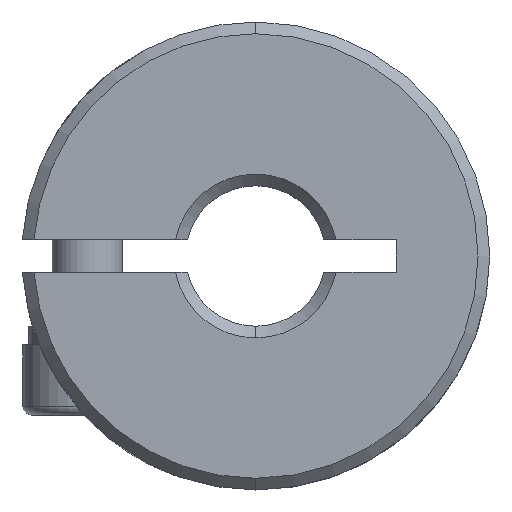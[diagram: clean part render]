
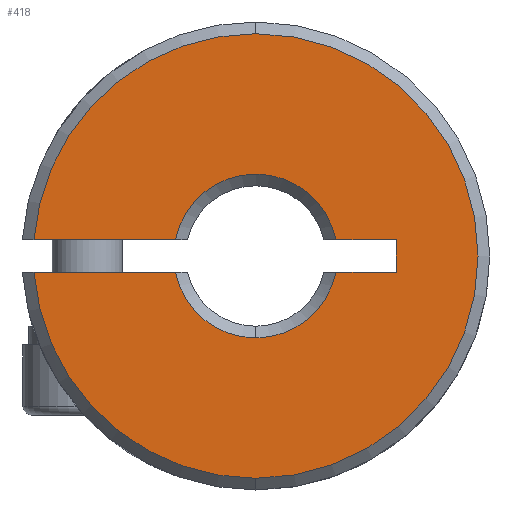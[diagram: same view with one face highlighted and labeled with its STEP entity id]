
A CAD part, front view. The second image highlights one B-rep face of the part: STEP entity #418.
In plain terms, the highlighted planar face has unit normal (0, -1, 0).
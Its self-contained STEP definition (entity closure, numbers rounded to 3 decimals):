
#97 = VECTOR ( 'NONE', #1485, 1000. ) ;
#99 = CARTESIAN_POINT ( 'NONE',  ( 0., 0.25, -9.5 ) ) ;
#171 = AXIS2_PLACEMENT_3D ( 'NONE', #2875, #2836, #2886 ) ;
#223 = VECTOR ( 'NONE', #518, 1000. ) ;
#232 = CIRCLE ( 'NONE', #3521, 9.5 ) ;
#249 = EDGE_CURVE ( 'NONE', #3676, #1661, #3660, .T. ) ;
#262 = CARTESIAN_POINT ( 'NONE',  ( 0., 0.25, 9.5 ) ) ;
#306 = CARTESIAN_POINT ( 'NONE',  ( 6., 0.25, 0.7 ) ) ;
#324 = LINE ( 'NONE', #3750, #419 ) ;
#384 = EDGE_CURVE ( 'NONE', #2089, #2376, #2683, .T. ) ;
#413 = VERTEX_POINT ( 'NONE', #2262 ) ;
#418 = ADVANCED_FACE ( 'NONE', ( #3232 ), #3124, .F. ) ;
#419 = VECTOR ( 'NONE', #2000, 1000. ) ;
#443 = EDGE_CURVE ( 'NONE', #3639, #1882, #324, .T. ) ;
#479 = EDGE_CURVE ( 'NONE', #1882, #747, #1127, .T. ) ;
#518 = DIRECTION ( 'NONE',  ( 1., 0., 0. ) ) ;
#524 = DIRECTION ( 'NONE',  ( 0., -1., 0. ) ) ;
#596 = CARTESIAN_POINT ( 'NONE',  ( 3.429, 0.25, 0.7 ) ) ;
#644 = VECTOR ( 'NONE', #1100, 1000. ) ;
#653 = ORIENTED_EDGE ( 'NONE', *, *, #1221, .T. ) ;
#657 = EDGE_CURVE ( 'NONE', #2267, #2376, #2352, .T. ) ;
#678 = LINE ( 'NONE', #1964, #223 ) ;
#682 = CIRCLE ( 'NONE', #2621, 9.5 ) ;
#747 = VERTEX_POINT ( 'NONE', #1320 ) ;
#752 = DIRECTION ( 'NONE',  ( 0., 1., 0. ) ) ;
#754 = AXIS2_PLACEMENT_3D ( 'NONE', #2215, #752, #1302 ) ;
#758 = DIRECTION ( 'NONE',  ( 0., 1., 0. ) ) ;
#817 = DIRECTION ( 'NONE',  ( 0., 0., 1. ) ) ;
#870 = CARTESIAN_POINT ( 'NONE',  ( 6., 0.25, 0.7 ) ) ;
#895 = VERTEX_POINT ( 'NONE', #99 ) ;
#922 = EDGE_CURVE ( 'NONE', #2089, #1244, #2681, .T. ) ;
#962 = DIRECTION ( 'NONE',  ( 0., 0., 1. ) ) ;
#1099 = ORIENTED_EDGE ( 'NONE', *, *, #443, .F. ) ;
#1100 = DIRECTION ( 'NONE',  ( -1., 0., 0. ) ) ;
#1109 = CARTESIAN_POINT ( 'NONE',  ( 6., 0.25, -0.7 ) ) ;
#1127 = LINE ( 'NONE', #870, #97 ) ;
#1221 = EDGE_CURVE ( 'NONE', #413, #895, #232, .T. ) ;
#1244 = VERTEX_POINT ( 'NONE', #596 ) ;
#1302 = DIRECTION ( 'NONE',  ( 0., 0., 1. ) ) ;
#1320 = CARTESIAN_POINT ( 'NONE',  ( 6., 0.25, 0.7 ) ) ;
#1428 = LINE ( 'NONE', #306, #3032 ) ;
#1444 = AXIS2_PLACEMENT_3D ( 'NONE', #1916, #758, #3698 ) ;
#1473 = AXIS2_PLACEMENT_3D ( 'NONE', #2367, #3005, #3299 ) ;
#1485 = DIRECTION ( 'NONE',  ( 0., 0., 1. ) ) ;
#1493 = CARTESIAN_POINT ( 'NONE',  ( 3.429, 0.25, -0.7 ) ) ;
#1553 = EDGE_CURVE ( 'NONE', #895, #2267, #682, .T. ) ;
#1571 = ORIENTED_EDGE ( 'NONE', *, *, #1553, .T. ) ;
#1661 = VERTEX_POINT ( 'NONE', #2277 ) ;
#1776 = ORIENTED_EDGE ( 'NONE', *, *, #2956, .F. ) ;
#1783 = ORIENTED_EDGE ( 'NONE', *, *, #2137, .T. ) ;
#1882 = VERTEX_POINT ( 'NONE', #1109 ) ;
#1887 = EDGE_LOOP ( 'NONE', ( #1776, #653, #1571, #2984, #2602, #2368, #2578, #3152, #1099, #1783, #2925 ) ) ;
#1916 = CARTESIAN_POINT ( 'NONE',  ( 0., 0.25, 0. ) ) ;
#1964 = CARTESIAN_POINT ( 'NONE',  ( 6., 0.25, -0.7 ) ) ;
#2000 = DIRECTION ( 'NONE',  ( 1., 0., 0. ) ) ;
#2089 = VERTEX_POINT ( 'NONE', #3352 ) ;
#2137 = EDGE_CURVE ( 'NONE', #3639, #3676, #2293, .T. ) ;
#2215 = CARTESIAN_POINT ( 'NONE',  ( 0., 0.25, 0. ) ) ;
#2262 = CARTESIAN_POINT ( 'NONE',  ( -9.474, 0.25, -0.7 ) ) ;
#2267 = VERTEX_POINT ( 'NONE', #262 ) ;
#2277 = CARTESIAN_POINT ( 'NONE',  ( -3.429, 0.25, -0.7 ) ) ;
#2293 = CIRCLE ( 'NONE', #754, 3.5 ) ;
#2352 = CIRCLE ( 'NONE', #3468, 9.5 ) ;
#2367 = CARTESIAN_POINT ( 'NONE',  ( 0., 0.25, 0. ) ) ;
#2368 = ORIENTED_EDGE ( 'NONE', *, *, #922, .T. ) ;
#2376 = VERTEX_POINT ( 'NONE', #3216 ) ;
#2482 = DIRECTION ( 'NONE',  ( 0., -1., 0. ) ) ;
#2572 = CARTESIAN_POINT ( 'NONE',  ( 0., 0.25, 0. ) ) ;
#2578 = ORIENTED_EDGE ( 'NONE', *, *, #3687, .F. ) ;
#2602 = ORIENTED_EDGE ( 'NONE', *, *, #384, .F. ) ;
#2621 = AXIS2_PLACEMENT_3D ( 'NONE', #2572, #524, #817 ) ;
#2681 = CIRCLE ( 'NONE', #1473, 3.5 ) ;
#2683 = LINE ( 'NONE', #2858, #644 ) ;
#2694 = CARTESIAN_POINT ( 'NONE',  ( 0., 0.25, 0. ) ) ;
#2722 = DIRECTION ( 'NONE',  ( 0., -1., 0. ) ) ;
#2836 = DIRECTION ( 'NONE',  ( 0., 1., 0. ) ) ;
#2858 = CARTESIAN_POINT ( 'NONE',  ( 6., 0.25, 0.7 ) ) ;
#2875 = CARTESIAN_POINT ( 'NONE',  ( -50., 0.25, 12. ) ) ;
#2886 = DIRECTION ( 'NONE',  ( 0., 0., 1. ) ) ;
#2920 = DIRECTION ( 'NONE',  ( -1., 0., 0. ) ) ;
#2925 = ORIENTED_EDGE ( 'NONE', *, *, #249, .T. ) ;
#2956 = EDGE_CURVE ( 'NONE', #413, #1661, #678, .T. ) ;
#2984 = ORIENTED_EDGE ( 'NONE', *, *, #657, .T. ) ;
#3005 = DIRECTION ( 'NONE',  ( 0., 1., 0. ) ) ;
#3032 = VECTOR ( 'NONE', #2920, 1000. ) ;
#3124 = PLANE ( 'NONE',  #171 ) ;
#3152 = ORIENTED_EDGE ( 'NONE', *, *, #479, .F. ) ;
#3216 = CARTESIAN_POINT ( 'NONE',  ( -9.474, 0.25, 0.7 ) ) ;
#3232 = FACE_OUTER_BOUND ( 'NONE', #1887, .T. ) ;
#3234 = CARTESIAN_POINT ( 'NONE',  ( 0., 0.25, 0. ) ) ;
#3299 = DIRECTION ( 'NONE',  ( 0., 0., 1. ) ) ;
#3352 = CARTESIAN_POINT ( 'NONE',  ( -3.429, 0.25, 0.7 ) ) ;
#3468 = AXIS2_PLACEMENT_3D ( 'NONE', #2694, #2722, #962 ) ;
#3521 = AXIS2_PLACEMENT_3D ( 'NONE', #3234, #2482, #3523 ) ;
#3523 = DIRECTION ( 'NONE',  ( 0., 0., 1. ) ) ;
#3567 = CARTESIAN_POINT ( 'NONE',  ( 0., 0.25, -3.5 ) ) ;
#3639 = VERTEX_POINT ( 'NONE', #1493 ) ;
#3660 = CIRCLE ( 'NONE', #1444, 3.5 ) ;
#3676 = VERTEX_POINT ( 'NONE', #3567 ) ;
#3687 = EDGE_CURVE ( 'NONE', #747, #1244, #1428, .T. ) ;
#3698 = DIRECTION ( 'NONE',  ( 0., 0., 1. ) ) ;
#3750 = CARTESIAN_POINT ( 'NONE',  ( 6., 0.25, -0.7 ) ) ;
